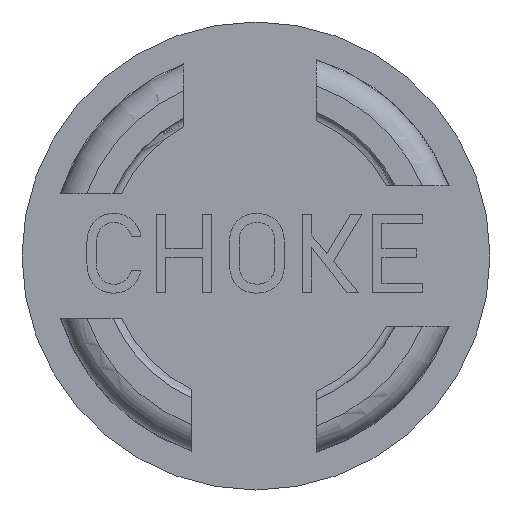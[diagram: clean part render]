
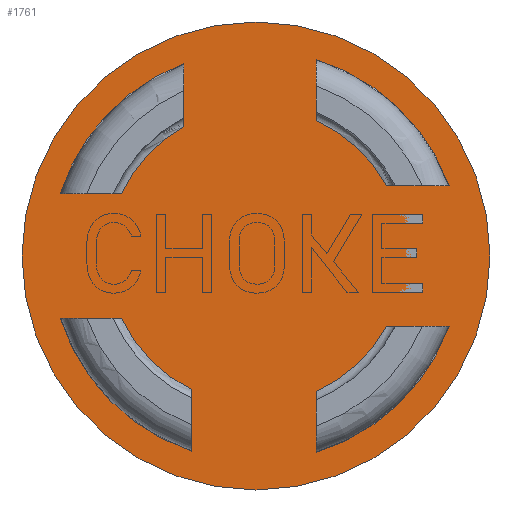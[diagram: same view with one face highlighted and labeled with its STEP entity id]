
A CAD part, front view. The second image highlights one B-rep face of the part: STEP entity #1761.
In plain terms, the highlighted planar face has unit normal (0, -1, 0).
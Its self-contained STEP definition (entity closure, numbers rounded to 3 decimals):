
#51=FACE_BOUND('',#238,.T.);
#52=FACE_BOUND('',#239,.T.);
#53=FACE_BOUND('',#240,.T.);
#54=FACE_BOUND('',#241,.T.);
#62=CIRCLE('',#1890,13.168);
#65=CIRCLE('',#1894,13.168);
#66=CIRCLE('',#1896,13.168);
#69=CIRCLE('',#1900,13.168);
#82=CIRCLE('',#1926,9.5);
#83=CIRCLE('',#1928,9.5);
#84=CIRCLE('',#1930,9.5);
#85=CIRCLE('',#1932,9.5);
#90=CIRCLE('',#1940,15.);
#135=FACE_OUTER_BOUND('',#237,.T.);
#237=EDGE_LOOP('',(#1285));
#238=EDGE_LOOP('',(#1286,#1287,#1288,#1289));
#239=EDGE_LOOP('',(#1290,#1291,#1292,#1293));
#240=EDGE_LOOP('',(#1294,#1295,#1296,#1297));
#241=EDGE_LOOP('',(#1298,#1299,#1300,#1301));
#314=LINE('',#2432,#487);
#317=LINE('',#2481,#490);
#320=LINE('',#2530,#493);
#323=LINE('',#2579,#496);
#328=LINE('',#2658,#501);
#331=LINE('',#2707,#504);
#334=LINE('',#2756,#507);
#337=LINE('',#2805,#510);
#487=VECTOR('',#2005,10.);
#490=VECTOR('',#2010,10.);
#493=VECTOR('',#2015,10.);
#496=VECTOR('',#2020,10.);
#501=VECTOR('',#2027,10.);
#504=VECTOR('',#2032,10.);
#507=VECTOR('',#2037,10.);
#510=VECTOR('',#2042,10.);
#716=VERTEX_POINT('',#2415);
#718=VERTEX_POINT('',#2431);
#722=VERTEX_POINT('',#2464);
#724=VERTEX_POINT('',#2480);
#728=VERTEX_POINT('',#2513);
#730=VERTEX_POINT('',#2529);
#734=VERTEX_POINT('',#2562);
#736=VERTEX_POINT('',#2578);
#741=VERTEX_POINT('',#2612);
#745=VERTEX_POINT('',#2647);
#747=VERTEX_POINT('',#2661);
#751=VERTEX_POINT('',#2696);
#753=VERTEX_POINT('',#2710);
#757=VERTEX_POINT('',#2745);
#759=VERTEX_POINT('',#2759);
#763=VERTEX_POINT('',#2794);
#767=VERTEX_POINT('',#2860);
#889=EDGE_CURVE('',#718,#716,#314,.T.);
#895=EDGE_CURVE('',#724,#722,#317,.T.);
#901=EDGE_CURVE('',#730,#728,#320,.T.);
#907=EDGE_CURVE('',#736,#734,#323,.T.);
#917=EDGE_CURVE('',#741,#745,#328,.T.);
#923=EDGE_CURVE('',#747,#751,#331,.T.);
#929=EDGE_CURVE('',#753,#757,#334,.T.);
#935=EDGE_CURVE('',#759,#763,#337,.T.);
#936=EDGE_CURVE('',#741,#734,#62,.T.);
#939=EDGE_CURVE('',#759,#722,#65,.T.);
#940=EDGE_CURVE('',#747,#728,#66,.T.);
#943=EDGE_CURVE('',#753,#716,#69,.T.);
#956=EDGE_CURVE('',#745,#736,#82,.T.);
#957=EDGE_CURVE('',#763,#724,#83,.T.);
#958=EDGE_CURVE('',#751,#730,#84,.T.);
#959=EDGE_CURVE('',#757,#718,#85,.T.);
#964=EDGE_CURVE('',#767,#767,#90,.T.);
#1285=ORIENTED_EDGE('',*,*,#964,.T.);
#1286=ORIENTED_EDGE('',*,*,#943,.F.);
#1287=ORIENTED_EDGE('',*,*,#929,.T.);
#1288=ORIENTED_EDGE('',*,*,#959,.T.);
#1289=ORIENTED_EDGE('',*,*,#889,.T.);
#1290=ORIENTED_EDGE('',*,*,#939,.F.);
#1291=ORIENTED_EDGE('',*,*,#935,.T.);
#1292=ORIENTED_EDGE('',*,*,#957,.T.);
#1293=ORIENTED_EDGE('',*,*,#895,.T.);
#1294=ORIENTED_EDGE('',*,*,#923,.T.);
#1295=ORIENTED_EDGE('',*,*,#958,.T.);
#1296=ORIENTED_EDGE('',*,*,#901,.T.);
#1297=ORIENTED_EDGE('',*,*,#940,.F.);
#1298=ORIENTED_EDGE('',*,*,#917,.T.);
#1299=ORIENTED_EDGE('',*,*,#956,.T.);
#1300=ORIENTED_EDGE('',*,*,#907,.T.);
#1301=ORIENTED_EDGE('',*,*,#936,.F.);
#1675=PLANE('',#1941);
#1761=ADVANCED_FACE('',(#135,#51,#52,#53,#54),#1675,.T.);
#1890=AXIS2_PLACEMENT_3D('',#2807,#2045,#2046);
#1894=AXIS2_PLACEMENT_3D('',#2811,#2053,#2054);
#1896=AXIS2_PLACEMENT_3D('',#2813,#2057,#2058);
#1900=AXIS2_PLACEMENT_3D('',#2817,#2065,#2066);
#1926=AXIS2_PLACEMENT_3D('',#2843,#2117,#2118);
#1928=AXIS2_PLACEMENT_3D('',#2845,#2121,#2122);
#1930=AXIS2_PLACEMENT_3D('',#2847,#2125,#2126);
#1932=AXIS2_PLACEMENT_3D('',#2849,#2129,#2130);
#1940=AXIS2_PLACEMENT_3D('',#2861,#2145,#2146);
#1941=AXIS2_PLACEMENT_3D('',#2863,#2148,#2149);
#2005=DIRECTION('',(-1.,0.,0.));
#2010=DIRECTION('',(0.,0.,1.));
#2015=DIRECTION('',(0.,0.,-1.));
#2020=DIRECTION('',(1.,0.,0.));
#2027=DIRECTION('',(0.,0.,1.));
#2032=DIRECTION('',(1.,0.,0.));
#2037=DIRECTION('',(0.,0.,-1.));
#2042=DIRECTION('',(-1.,0.,0.));
#2045=DIRECTION('center_axis',(0.,-1.,0.));
#2046=DIRECTION('ref_axis',(1.,0.,0.));
#2053=DIRECTION('center_axis',(0.,-1.,0.));
#2054=DIRECTION('ref_axis',(1.,0.,0.));
#2057=DIRECTION('center_axis',(0.,-1.,0.));
#2058=DIRECTION('ref_axis',(1.,0.,0.));
#2065=DIRECTION('center_axis',(0.,-1.,0.));
#2066=DIRECTION('ref_axis',(1.,0.,0.));
#2117=DIRECTION('center_axis',(0.,-1.,0.));
#2118=DIRECTION('ref_axis',(1.,0.,0.));
#2121=DIRECTION('center_axis',(0.,-1.,0.));
#2122=DIRECTION('ref_axis',(1.,0.,0.));
#2125=DIRECTION('center_axis',(0.,-1.,0.));
#2126=DIRECTION('ref_axis',(1.,0.,0.));
#2129=DIRECTION('center_axis',(0.,-1.,0.));
#2130=DIRECTION('ref_axis',(1.,0.,0.));
#2145=DIRECTION('center_axis',(0.,-1.,0.));
#2146=DIRECTION('ref_axis',(1.,0.,0.));
#2148=DIRECTION('center_axis',(0.,-1.,0.));
#2149=DIRECTION('ref_axis',(0.,0.,-1.));
#2415=CARTESIAN_POINT('',(-12.409,4.5,4.));
#2431=CARTESIAN_POINT('',(-8.48,4.5,4.));
#2432=CARTESIAN_POINT('',(-4.5,4.5,4.));
#2464=CARTESIAN_POINT('',(4.,4.5,12.589));
#2480=CARTESIAN_POINT('',(4.,4.5,8.679));
#2481=CARTESIAN_POINT('',(4.,4.5,4.5));
#2513=CARTESIAN_POINT('',(-4.,4.5,-12.502));
#2529=CARTESIAN_POINT('',(-4.,4.5,-8.552));
#2530=CARTESIAN_POINT('',(-4.,4.5,-4.));
#2562=CARTESIAN_POINT('',(12.513,4.5,-4.5));
#2578=CARTESIAN_POINT('',(8.504,4.5,-4.5));
#2579=CARTESIAN_POINT('',(4.,4.5,-4.5));
#2612=CARTESIAN_POINT('',(4.,4.5,-12.589));
#2647=CARTESIAN_POINT('',(4.,4.5,-8.679));
#2658=CARTESIAN_POINT('',(4.,4.5,-13.5));
#2661=CARTESIAN_POINT('',(-12.409,4.5,-4.));
#2696=CARTESIAN_POINT('',(-8.48,4.5,-4.));
#2707=CARTESIAN_POINT('',(-13.5,4.5,-4.));
#2710=CARTESIAN_POINT('',(-4.5,4.5,12.325));
#2745=CARTESIAN_POINT('',(-4.5,4.5,8.291));
#2756=CARTESIAN_POINT('',(-4.5,4.5,13.5));
#2759=CARTESIAN_POINT('',(12.513,4.5,4.5));
#2794=CARTESIAN_POINT('',(8.504,4.5,4.5));
#2805=CARTESIAN_POINT('',(13.5,4.5,4.5));
#2807=CARTESIAN_POINT('Origin',(0.137,4.5,0.));
#2811=CARTESIAN_POINT('Origin',(0.137,4.5,0.));
#2813=CARTESIAN_POINT('Origin',(0.137,4.5,0.));
#2817=CARTESIAN_POINT('Origin',(0.137,4.5,0.));
#2843=CARTESIAN_POINT('Origin',(0.137,4.5,0.));
#2845=CARTESIAN_POINT('Origin',(0.137,4.5,0.));
#2847=CARTESIAN_POINT('Origin',(0.137,4.5,0.));
#2849=CARTESIAN_POINT('Origin',(0.137,4.5,0.));
#2860=CARTESIAN_POINT('',(-14.863,4.5,0.));
#2861=CARTESIAN_POINT('Origin',(0.137,4.5,0.));
#2863=CARTESIAN_POINT('Origin',(13.305,4.5,0.));
